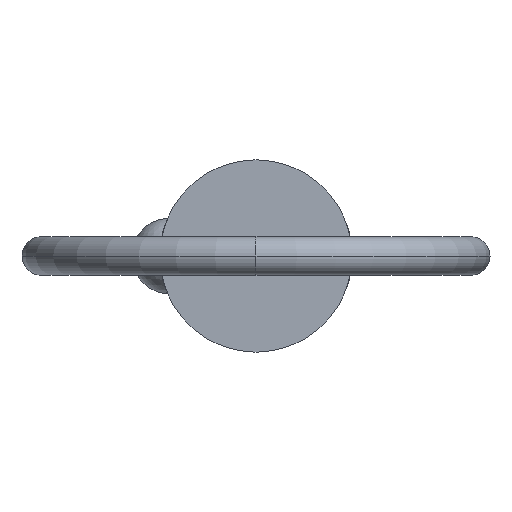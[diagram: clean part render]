
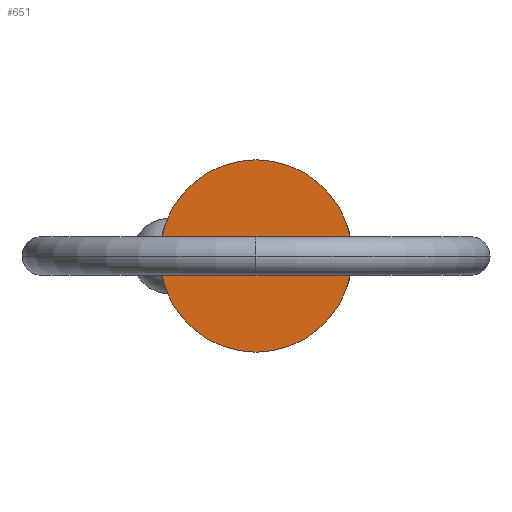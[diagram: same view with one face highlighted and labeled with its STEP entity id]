
A CAD part, left-side view. The second image highlights one B-rep face of the part: STEP entity #651.
In plain terms, the highlighted planar face has unit normal (-1, 0, 0).
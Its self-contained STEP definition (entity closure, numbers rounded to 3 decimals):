
#3 = AXIS2_PLACEMENT_3D ( 'NONE', #244, #176, #321 ) ;
#63 = DIRECTION ( 'NONE',  ( 1., 0., 0. ) ) ;
#141 = CARTESIAN_POINT ( 'NONE',  ( 0., 0., 7.11 ) ) ;
#142 = CIRCLE ( 'NONE', #183, 7.11 ) ;
#147 = DIRECTION ( 'NONE',  ( -1., 0., 0. ) ) ;
#176 = DIRECTION ( 'NONE',  ( 1., 0., 0. ) ) ;
#183 = AXIS2_PLACEMENT_3D ( 'NONE', #262, #63, #745 ) ;
#223 = ORIENTED_EDGE ( 'NONE', *, *, #451, .F. ) ;
#244 = CARTESIAN_POINT ( 'NONE',  ( 0., 0., 0. ) ) ;
#250 = EDGE_CURVE ( 'NONE', #370, #875, #142, .T. ) ;
#262 = CARTESIAN_POINT ( 'NONE',  ( 0., 0., 0. ) ) ;
#278 = DIRECTION ( 'NONE',  ( 0., 0., 1. ) ) ;
#321 = DIRECTION ( 'NONE',  ( 0., 0., -1. ) ) ;
#370 = VERTEX_POINT ( 'NONE', #141 ) ;
#412 = PLANE ( 'NONE',  #579 ) ;
#414 = EDGE_LOOP ( 'NONE', ( #223, #691 ) ) ;
#451 = EDGE_CURVE ( 'NONE', #875, #370, #497, .T. ) ;
#497 = CIRCLE ( 'NONE', #3, 7.11 ) ;
#555 = CARTESIAN_POINT ( 'NONE',  ( 0., 0., 0. ) ) ;
#579 = AXIS2_PLACEMENT_3D ( 'NONE', #555, #147, #278 ) ;
#651 = ADVANCED_FACE ( 'NONE', ( #734 ), #412, .T. ) ;
#691 = ORIENTED_EDGE ( 'NONE', *, *, #250, .F. ) ;
#708 = CARTESIAN_POINT ( 'NONE',  ( 0., 0., -7.11 ) ) ;
#734 = FACE_OUTER_BOUND ( 'NONE', #414, .T. ) ;
#745 = DIRECTION ( 'NONE',  ( 0., 0., -1. ) ) ;
#875 = VERTEX_POINT ( 'NONE', #708 ) ;
